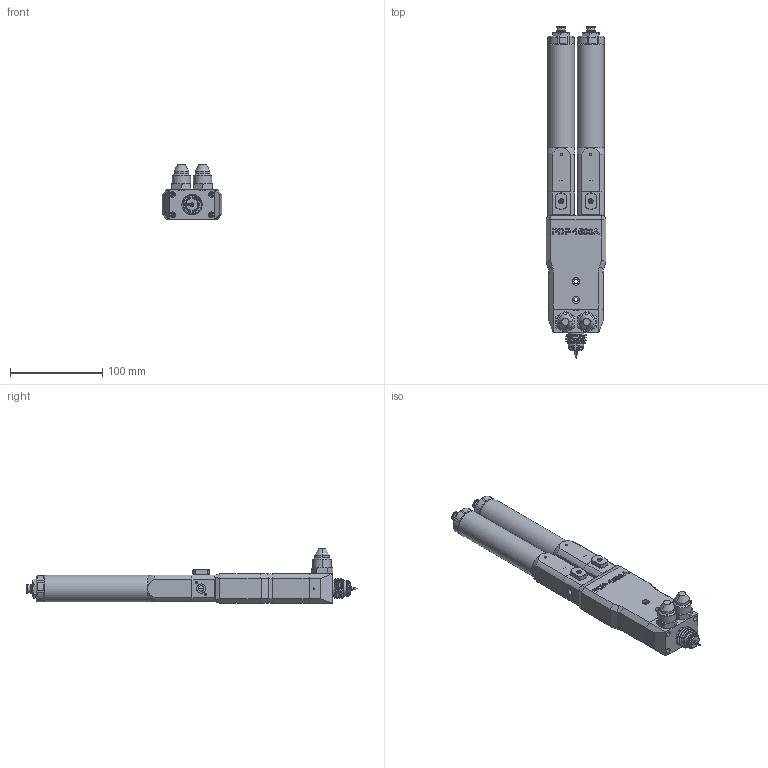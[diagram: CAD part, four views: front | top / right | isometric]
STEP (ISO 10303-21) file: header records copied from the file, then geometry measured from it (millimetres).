
FILE_DESCRIPTION (( 'STEP AP214' ), '1' );
FILE_NAME ('PDPM-1500-1000CB.STEP', '2024-10-11T12:35:14', ( '' ), ( '' ), 'SwSTEP 2.0', 'SolidWorks 2024', '' );
FILE_SCHEMA (( 'AUTOMOTIVE_DESIGN' ));
Length unit declared in the file: millimetre
Products named in the file (1): PDPM-1500-1000CB
Bounding box: 65 x 360 x 59.3 mm (x, y, z)
Volume: 527438.1 mm3; surface area: 127016.5 mm2
Topology: 13 solids, 13 shells, 1596 faces, 4029 edges, 2558 vertices
Faces by surface type: plane 759, cylinder 472, cone 323, bspline 22, torus 12, sphere 8
Full cylindrical faces by diameter (mm): 29 x2
Entity records: 59266 total; most frequent: CARTESIAN_POINT 21007, ORIENTED_EDGE 7982, DIRECTION 7875, EDGE_CURVE 3991, AXIS2_PLACEMENT_3D 2825, VERTEX_POINT 2558, LINE 2225, VECTOR 2225
